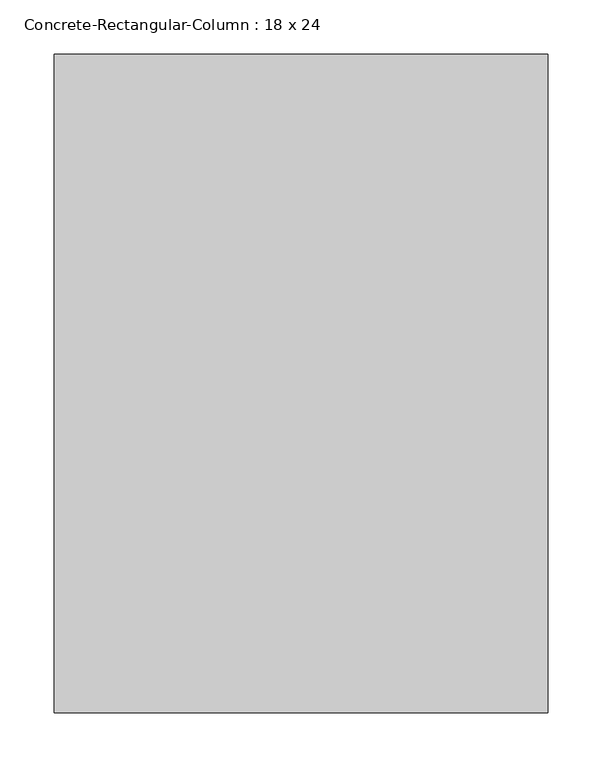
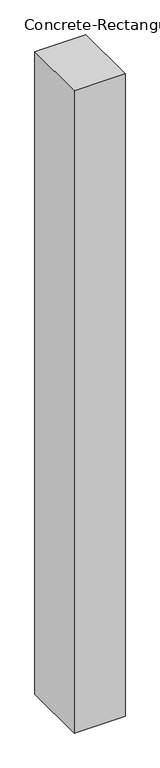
"""IFC4 building model written with IfcOpenShell, lengths in millimetres: column geometry, Concrete-Rectangular-Column : 18 x 24."""

from ifc_helpers import new_model, si_unit, origin, origin_with_axes, place, context, project, spatial, polyline, outline, extrude, source, transform, mapped, element, save


def concrete_rectangular_column_18_x_24_9683aa1b(model_context):
    return source(origin(), model_context, "Body", "SweptSolid", [
        extrude(outline(polyline([(228.6, 304.8), (228.6, -304.8), (-228.6, -304.8), (-228.6, 304.8), (228.6, 304.8)])), origin_with_axes(), (0.0, 0.0, 1.0), 6096.0),
    ])


if __name__ == "__main__":
    model = new_model("IFC4")
    model_context = context("Model", 3, world=origin())
    ifc_project = project(units=[si_unit("LENGTHUNIT", "METRE", prefix="MILLI")], contexts=[model_context])
    site = spatial("IfcSite", under=ifc_project)
    building = spatial("IfcBuilding", under=site)
    placement = place(None, origin())
    concrete_rectangular_column_18_x_24_shape = concrete_rectangular_column_18_x_24_9683aa1b(model_context)
    element("IfcColumn", 1, ObjectType="Concrete-Rectangular-Column : 18 x 24", at=placement, inside=building, context=model_context, shape_type="MappedRepresentation", body=[
        mapped(concrete_rectangular_column_18_x_24_shape, transform((0.0, 0.0, 0.0), x_axis=(1.0, 0.0, 0.0), y_axis=(0.0, 1.0, 0.0), z_axis=(0.0, 0.0, 1.0))),
    ])
    save(model, "model.ifc")
